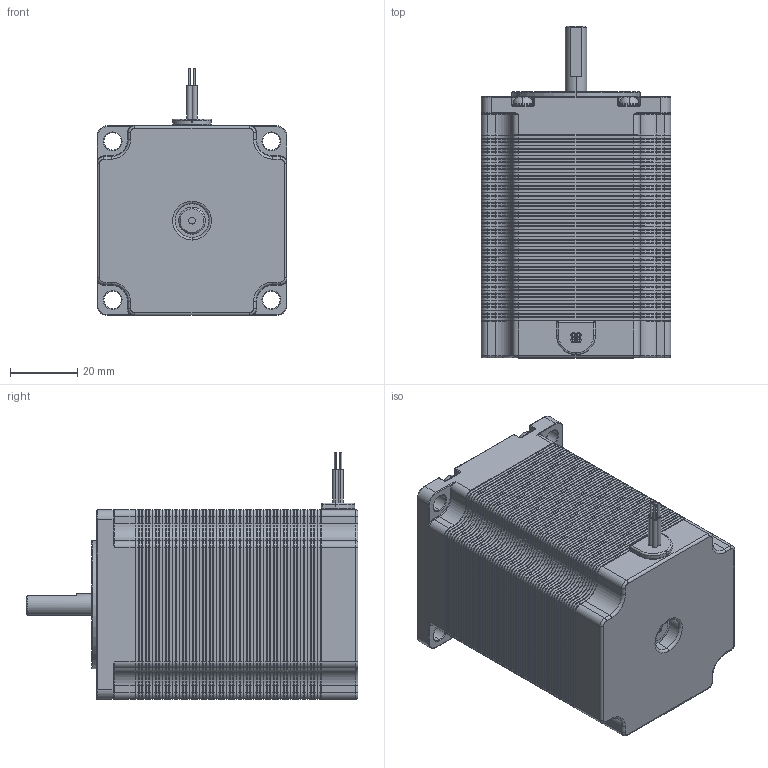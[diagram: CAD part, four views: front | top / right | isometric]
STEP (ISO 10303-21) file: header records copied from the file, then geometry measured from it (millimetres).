
FILE_DESCRIPTION (( 'STEP AP214' ), '1' );
FILE_NAME ('Nema 23 Stepper Motor length 78mm_6.35.STEP', '2020-11-11T10:25:27', ( 'Moofasta' ), ( '' ), 'SwSTEP 2.0', 'SolidWorks 2020', '' );
FILE_SCHEMA (( 'AUTOMOTIVE_DESIGN' ));
Length unit declared in the file: millimetre
Products named in the file (1): Nema 23 Stepper Motor length 78mm_6.35
Bounding box: 56.3 x 98.5 x 73.3 mm (x, y, z)
Volume: 223834.1 mm3; surface area: 342413.3 mm2
Topology: 71 solids, 71 shells, 4547 faces, 10336 edges, 5917 vertices
Faces by surface type: plane 2263, cone 1348, cylinder 822, torus 94, sphere 12, bspline 8
Entity records: 170130 total; most frequent: DIRECTION 22462, CARTESIAN_POINT 21235, ORIENTED_EDGE 20632, EDGE_CURVE 10316, AXIS2_PLACEMENT_3D 7680, VECTOR 7102, LINE 7102, VERTEX_POINT 5917
